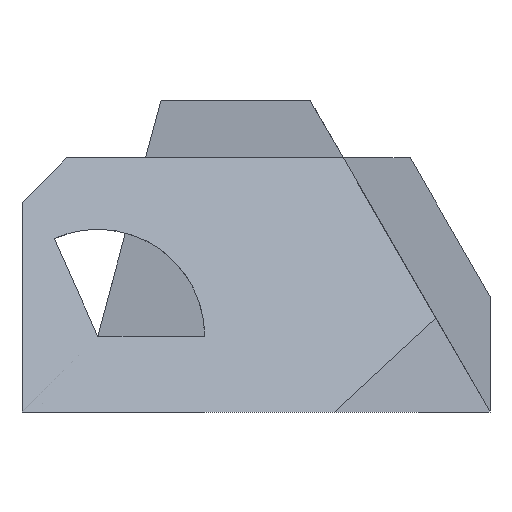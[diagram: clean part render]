
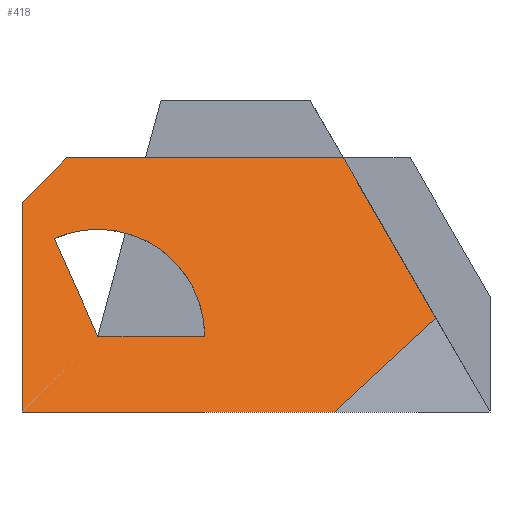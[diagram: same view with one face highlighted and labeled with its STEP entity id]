
A CAD part, front view. The second image highlights one B-rep face of the part: STEP entity #418.
In plain terms, the highlighted planar face has unit normal (0, -0.927, 0.375).
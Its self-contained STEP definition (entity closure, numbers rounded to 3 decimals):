
#16=FACE_BOUND('',#57,.T.);
#17=ELLIPSE('',#446,25.885,24.);
#33=FACE_OUTER_BOUND('',#56,.T.);
#56=EDGE_LOOP('',(#328,#329,#330,#331,#332,#333));
#57=EDGE_LOOP('',(#334,#335,#336));
#103=LINE('',#644,#157);
#104=LINE('',#646,#158);
#105=LINE('',#648,#159);
#106=LINE('',#650,#160);
#107=LINE('',#652,#161);
#108=LINE('',#653,#162);
#109=LINE('',#656,#163);
#110=LINE('',#658,#164);
#157=VECTOR('',#526,32.198);
#158=VECTOR('',#527,44.016);
#159=VECTOR('',#528,62.091);
#160=VECTOR('',#529,14.708);
#161=VECTOR('',#530,50.691);
#162=VECTOR('',#531,70.);
#163=VECTOR('',#532,24.);
#164=VECTOR('',#533,25.583);
#200=VERTEX_POINT('',#642);
#201=VERTEX_POINT('',#643);
#202=VERTEX_POINT('',#645);
#203=VERTEX_POINT('',#647);
#204=VERTEX_POINT('',#649);
#205=VERTEX_POINT('',#651);
#206=VERTEX_POINT('',#654);
#207=VERTEX_POINT('',#655);
#208=VERTEX_POINT('',#657);
#248=EDGE_CURVE('',#200,#201,#103,.T.);
#249=EDGE_CURVE('',#202,#200,#104,.T.);
#250=EDGE_CURVE('',#203,#202,#105,.T.);
#251=EDGE_CURVE('',#204,#203,#106,.T.);
#252=EDGE_CURVE('',#205,#204,#107,.T.);
#253=EDGE_CURVE('',#205,#201,#108,.T.);
#254=EDGE_CURVE('',#206,#207,#109,.T.);
#255=EDGE_CURVE('',#208,#206,#110,.T.);
#256=EDGE_CURVE('',#207,#208,#17,.T.);
#328=ORIENTED_EDGE('',*,*,#248,.F.);
#329=ORIENTED_EDGE('',*,*,#249,.F.);
#330=ORIENTED_EDGE('',*,*,#250,.F.);
#331=ORIENTED_EDGE('',*,*,#251,.F.);
#332=ORIENTED_EDGE('',*,*,#252,.F.);
#333=ORIENTED_EDGE('',*,*,#253,.T.);
#334=ORIENTED_EDGE('',*,*,#254,.F.);
#335=ORIENTED_EDGE('',*,*,#255,.F.);
#336=ORIENTED_EDGE('',*,*,#256,.F.);
#396=PLANE('',#445);
#418=ADVANCED_FACE('',(#33,#16),#396,.F.);
#445=AXIS2_PLACEMENT_3D('',#641,#524,#525);
#446=AXIS2_PLACEMENT_3D('',#659,#534,#535);
#524=DIRECTION('center_axis',(0.,0.927,-0.375));
#525=DIRECTION('ref_axis',(0.,-0.375,-0.927));
#526=DIRECTION('',(-0.71,-0.264,-0.653));
#527=DIRECTION('',(0.472,-0.33,-0.817));
#528=DIRECTION('',(1.,0.,0.));
#529=DIRECTION('',(0.68,0.275,0.68));
#530=DIRECTION('',(0.,0.375,0.927));
#531=DIRECTION('',(1.,0.,0.));
#532=DIRECTION('',(1.,0.,0.));
#533=DIRECTION('',(0.382,-0.346,-0.857));
#534=DIRECTION('center_axis',(0.,-0.927,0.375));
#535=DIRECTION('ref_axis',(0.,-0.375,-0.927));
#641=CARTESIAN_POINT('Origin',(105.,23.029,57.));
#642=CARTESIAN_POINT('',(92.864,8.492,21.02));
#643=CARTESIAN_POINT('',(70.,0.,0.));
#644=CARTESIAN_POINT('',(104.235,12.716,31.473));
#645=CARTESIAN_POINT('',(72.091,23.029,57.));
#646=CARTESIAN_POINT('',(92.21,8.95,22.152));
#647=CARTESIAN_POINT('',(10.,23.029,57.));
#648=CARTESIAN_POINT('',(52.5,23.029,57.));
#649=CARTESIAN_POINT('',(0.,18.989,47.));
#650=CARTESIAN_POINT('',(27.496,30.098,74.496));
#651=CARTESIAN_POINT('',(0.,0.,0.));
#652=CARTESIAN_POINT('',(0.,11.515,28.5));
#653=CARTESIAN_POINT('',(0.,0.,0.));
#654=CARTESIAN_POINT('',(17.,6.868,17.));
#655=CARTESIAN_POINT('',(41.,6.868,17.));
#656=CARTESIAN_POINT('',(73.,6.868,17.));
#657=CARTESIAN_POINT('',(7.238,15.727,38.925));
#658=CARTESIAN_POINT('',(16.252,7.547,18.68));
#659=CARTESIAN_POINT('Origin',(17.,6.868,17.));
